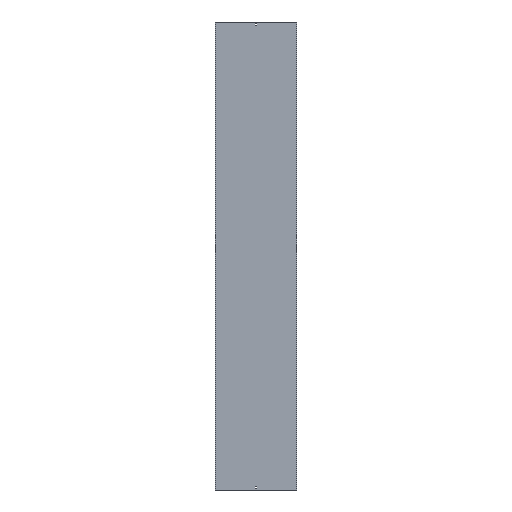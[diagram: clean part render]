
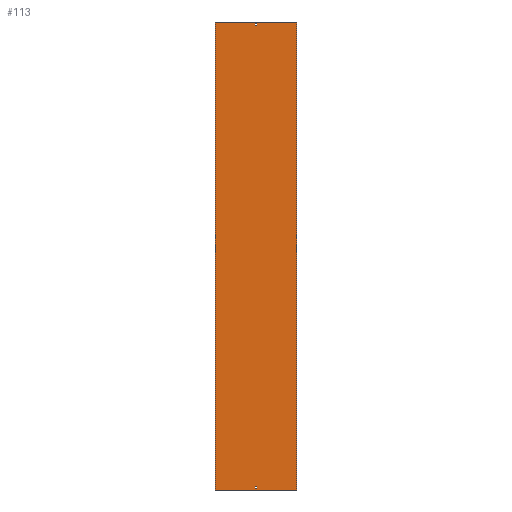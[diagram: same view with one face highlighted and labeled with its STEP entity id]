
A CAD part, front view. The second image highlights one B-rep face of the part: STEP entity #113.
In plain terms, the highlighted planar face has unit normal (0, -1, 0).
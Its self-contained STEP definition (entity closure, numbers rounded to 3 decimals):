
#7 = CARTESIAN_POINT ( 'NONE',  ( -3.25, -1.5, -1479. ) ) ;
#22 = CARTESIAN_POINT ( 'NONE',  ( 260., -1.5, 1500. ) ) ;
#26 = ORIENTED_EDGE ( 'NONE', *, *, #539, .F. ) ;
#30 = DIRECTION ( 'NONE',  ( 0., 0., -1. ) ) ;
#32 = CARTESIAN_POINT ( 'NONE',  ( 260., -1.5, -1500. ) ) ;
#37 = LINE ( 'NONE', #538, #239 ) ;
#41 = CARTESIAN_POINT ( 'NONE',  ( -261.5, -1.5, 1500. ) ) ;
#42 = CARTESIAN_POINT ( 'NONE',  ( -261.5, -1.5, 1500. ) ) ;
#46 = CARTESIAN_POINT ( 'NONE',  ( -261.5, -1.5, -1488. ) ) ;
#52 = CARTESIAN_POINT ( 'NONE',  ( -3.25, -1.5, 1500. ) ) ;
#53 = CARTESIAN_POINT ( 'NONE',  ( 260., -1.5, 1500. ) ) ;
#68 = VECTOR ( 'NONE', #280, 1000. ) ;
#71 = DIRECTION ( 'NONE',  ( 0., 0., -1. ) ) ;
#72 = ORIENTED_EDGE ( 'NONE', *, *, #367, .T. ) ;
#73 = VERTEX_POINT ( 'NONE', #168 ) ;
#81 = FACE_OUTER_BOUND ( 'NONE', #190, .T. ) ;
#84 = PLANE ( 'NONE',  #188 ) ;
#85 = DIRECTION ( 'NONE',  ( -1., 0., 0. ) ) ;
#90 = LINE ( 'NONE', #540, #406 ) ;
#92 = DIRECTION ( 'NONE',  ( 0., 0., 1. ) ) ;
#93 = EDGE_CURVE ( 'NONE', #591, #455, #534, .T. ) ;
#96 = DIRECTION ( 'NONE',  ( -1., 0., 0. ) ) ;
#101 = ORIENTED_EDGE ( 'NONE', *, *, #93, .F. ) ;
#104 = ORIENTED_EDGE ( 'NONE', *, *, #326, .T. ) ;
#109 = LINE ( 'NONE', #338, #229 ) ;
#110 = CARTESIAN_POINT ( 'NONE',  ( 3.25, -1.5, -1488. ) ) ;
#113 = ADVANCED_FACE ( 'NONE', ( #251, #81, #308 ), #84, .T. ) ;
#114 = ORIENTED_EDGE ( 'NONE', *, *, #231, .T. ) ;
#138 = EDGE_CURVE ( 'NONE', #448, #591, #216, .T. ) ;
#139 = CARTESIAN_POINT ( 'NONE',  ( -261.5, -1.5, 1479. ) ) ;
#149 = LINE ( 'NONE', #139, #519 ) ;
#154 = ORIENTED_EDGE ( 'NONE', *, *, #339, .T. ) ;
#168 = CARTESIAN_POINT ( 'NONE',  ( 3.25, -1.5, -1479. ) ) ;
#170 = DIRECTION ( 'NONE',  ( -1., 0., 0. ) ) ;
#174 = VECTOR ( 'NONE', #85, 1000. ) ;
#178 = CARTESIAN_POINT ( 'NONE',  ( -260., -1.5, 1500. ) ) ;
#188 = AXIS2_PLACEMENT_3D ( 'NONE', #41, #301, #486 ) ;
#190 = EDGE_LOOP ( 'NONE', ( #340, #26, #114, #203 ) ) ;
#196 = EDGE_CURVE ( 'NONE', #342, #448, #37, .T. ) ;
#203 = ORIENTED_EDGE ( 'NONE', *, *, #407, .T. ) ;
#205 = ORIENTED_EDGE ( 'NONE', *, *, #261, .T. ) ;
#206 = DIRECTION ( 'NONE',  ( 0., 0., 1. ) ) ;
#209 = CARTESIAN_POINT ( 'NONE',  ( -3.25, -1.5, 1488. ) ) ;
#215 = EDGE_CURVE ( 'NONE', #247, #546, #533, .T. ) ;
#216 = LINE ( 'NONE', #439, #174 ) ;
#226 = VERTEX_POINT ( 'NONE', #441 ) ;
#229 = VECTOR ( 'NONE', #71, 1000. ) ;
#230 = LINE ( 'NONE', #53, #307 ) ;
#231 = EDGE_CURVE ( 'NONE', #390, #278, #431, .T. ) ;
#237 = ORIENTED_EDGE ( 'NONE', *, *, #564, .F. ) ;
#239 = VECTOR ( 'NONE', #206, 1000. ) ;
#247 = VERTEX_POINT ( 'NONE', #32 ) ;
#251 = FACE_BOUND ( 'NONE', #464, .T. ) ;
#256 = VECTOR ( 'NONE', #92, 1000. ) ;
#261 = EDGE_CURVE ( 'NONE', #73, #501, #311, .T. ) ;
#265 = CARTESIAN_POINT ( 'NONE',  ( -261.5, -1.5, -1500. ) ) ;
#268 = DIRECTION ( 'NONE',  ( 1., 0., 0. ) ) ;
#278 = VERTEX_POINT ( 'NONE', #178 ) ;
#280 = DIRECTION ( 'NONE',  ( 0., 0., -1. ) ) ;
#300 = ORIENTED_EDGE ( 'NONE', *, *, #138, .F. ) ;
#301 = DIRECTION ( 'NONE',  ( 0., -1., 0. ) ) ;
#307 = VECTOR ( 'NONE', #418, 1000. ) ;
#308 = FACE_BOUND ( 'NONE', #337, .T. ) ;
#311 = LINE ( 'NONE', #368, #68 ) ;
#319 = LINE ( 'NONE', #46, #447 ) ;
#321 = CARTESIAN_POINT ( 'NONE',  ( -260., -1.5, -1500. ) ) ;
#326 = EDGE_CURVE ( 'NONE', #501, #226, #319, .T. ) ;
#330 = CARTESIAN_POINT ( 'NONE',  ( -3.25, -1.5, 1479. ) ) ;
#334 = VECTOR ( 'NONE', #170, 1000. ) ;
#336 = DIRECTION ( 'NONE',  ( 1., 0., 0. ) ) ;
#337 = EDGE_LOOP ( 'NONE', ( #104, #72, #154, #205 ) ) ;
#338 = CARTESIAN_POINT ( 'NONE',  ( -260., -1.5, 1500. ) ) ;
#339 = EDGE_CURVE ( 'NONE', #385, #73, #90, .T. ) ;
#340 = ORIENTED_EDGE ( 'NONE', *, *, #215, .F. ) ;
#342 = VERTEX_POINT ( 'NONE', #492 ) ;
#354 = DIRECTION ( 'NONE',  ( -1., 0., 0. ) ) ;
#366 = LINE ( 'NONE', #52, #256 ) ;
#367 = EDGE_CURVE ( 'NONE', #226, #385, #366, .T. ) ;
#368 = CARTESIAN_POINT ( 'NONE',  ( 3.25, -1.5, 1500. ) ) ;
#385 = VERTEX_POINT ( 'NONE', #7 ) ;
#390 = VERTEX_POINT ( 'NONE', #22 ) ;
#406 = VECTOR ( 'NONE', #268, 1000. ) ;
#407 = EDGE_CURVE ( 'NONE', #278, #546, #109, .T. ) ;
#418 = DIRECTION ( 'NONE',  ( 0., 0., -1. ) ) ;
#431 = LINE ( 'NONE', #42, #334 ) ;
#439 = CARTESIAN_POINT ( 'NONE',  ( -261.5, -1.5, 1488. ) ) ;
#441 = CARTESIAN_POINT ( 'NONE',  ( -3.25, -1.5, -1488. ) ) ;
#447 = VECTOR ( 'NONE', #96, 1000. ) ;
#448 = VERTEX_POINT ( 'NONE', #515 ) ;
#455 = VERTEX_POINT ( 'NONE', #330 ) ;
#464 = EDGE_LOOP ( 'NONE', ( #101, #300, #473, #237 ) ) ;
#473 = ORIENTED_EDGE ( 'NONE', *, *, #196, .F. ) ;
#486 = DIRECTION ( 'NONE',  ( 0., 0., -1. ) ) ;
#492 = CARTESIAN_POINT ( 'NONE',  ( 3.25, -1.5, 1479. ) ) ;
#501 = VERTEX_POINT ( 'NONE', #110 ) ;
#515 = CARTESIAN_POINT ( 'NONE',  ( 3.25, -1.5, 1488. ) ) ;
#518 = VECTOR ( 'NONE', #30, 1000. ) ;
#519 = VECTOR ( 'NONE', #336, 1000. ) ;
#527 = CARTESIAN_POINT ( 'NONE',  ( -3.25, -1.5, 1500. ) ) ;
#533 = LINE ( 'NONE', #265, #548 ) ;
#534 = LINE ( 'NONE', #527, #518 ) ;
#538 = CARTESIAN_POINT ( 'NONE',  ( 3.25, -1.5, 1500. ) ) ;
#539 = EDGE_CURVE ( 'NONE', #390, #247, #230, .T. ) ;
#540 = CARTESIAN_POINT ( 'NONE',  ( -261.5, -1.5, -1479. ) ) ;
#546 = VERTEX_POINT ( 'NONE', #321 ) ;
#548 = VECTOR ( 'NONE', #354, 1000. ) ;
#564 = EDGE_CURVE ( 'NONE', #455, #342, #149, .T. ) ;
#591 = VERTEX_POINT ( 'NONE', #209 ) ;
